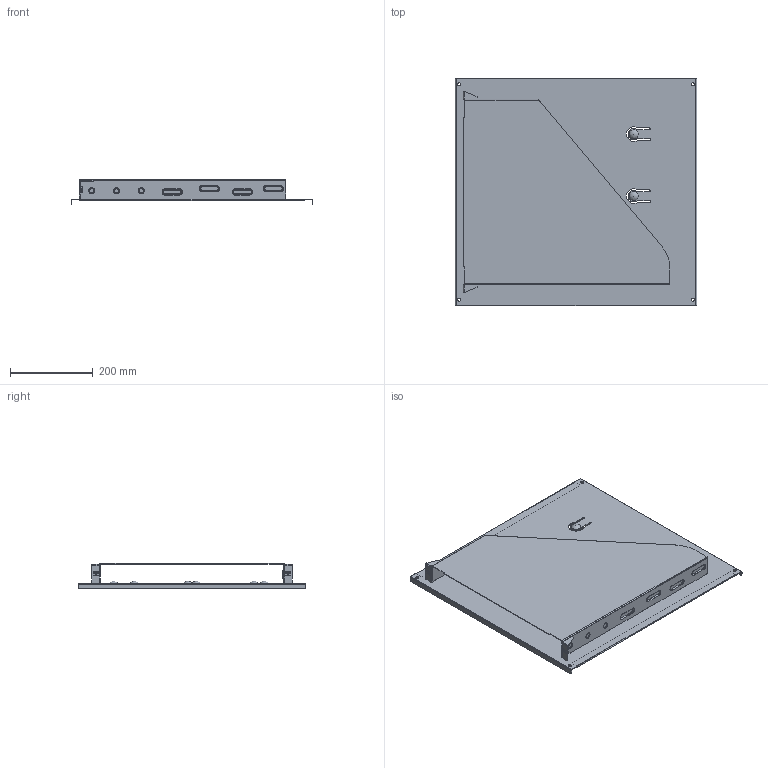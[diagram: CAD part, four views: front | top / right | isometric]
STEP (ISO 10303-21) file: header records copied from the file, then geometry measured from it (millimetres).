
FILE_DESCRIPTION (( 'STEP AP214' ), '1' );
FILE_NAME ('switch_panel.STEP', '2020-07-30T14:19:56', ( '' ), ( '' ), 'SwSTEP 2.0', 'SolidWorks 2016', '' );
FILE_SCHEMA (( 'AUTOMOTIVE_DESIGN' ));
Length unit declared in the file: millimetre
Products named in the file (6): switch_door_support; switch_panel; side_wall_switch; PORCA-QUADRADA; cage_nut_M5; SPT-PORCA
Assembly tree (6 placements, depth 3):
  switch_panel
    side_wall_switch
    switch_door_support
    cage_nut_M5  x2
      SPT-PORCA
      PORCA-QUADRADA
Bounding box: 584.8 x 552 x 61 mm (x, y, z)
Volume: 826143.9 mm3; surface area: 1113033.6 mm2
Topology: 4 solids, 8 shells, 557 faces, 1467 edges, 936 vertices
Faces by surface type: plane 331, cylinder 178, bspline 24, sphere 12, cone 12
Entity records: 20918 total; most frequent: CARTESIAN_POINT 9085, ORIENTED_EDGE 2410, DIRECTION 2407, EDGE_CURVE 1207, VECTOR 823, LINE 823, AXIS2_PLACEMENT_3D 792, VERTEX_POINT 778
